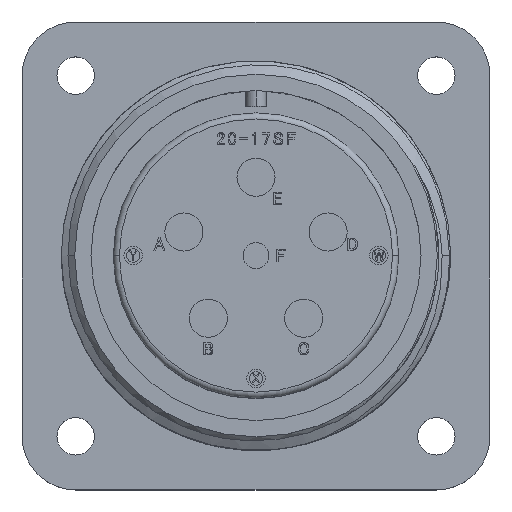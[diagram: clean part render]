
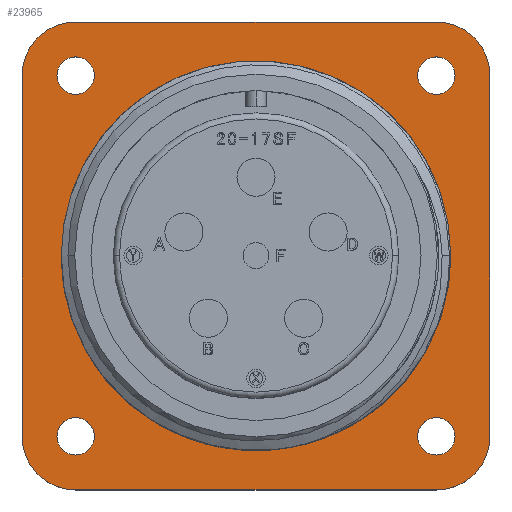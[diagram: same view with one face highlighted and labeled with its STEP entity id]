
A CAD part, top view. The second image highlights one B-rep face of the part: STEP entity #23965.
In plain terms, the highlighted planar face has unit normal (0, 0, 1).
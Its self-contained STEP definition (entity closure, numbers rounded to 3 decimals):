
#15 = CARTESIAN_POINT ( 'NONE',  ( 13.16, 14.685, -19.24 ) ) ;
#23 = EDGE_CURVE ( 'NONE', #2464, #2464, #17229, .T. ) ;
#216 = CIRCLE ( 'NONE', #7450, 4.37 ) ;
#371 = CIRCLE ( 'NONE', #15408, 4.37 ) ;
#824 = AXIS2_PLACEMENT_3D ( 'NONE', #6461, #23479, #8921 ) ;
#1023 = VERTEX_POINT ( 'NONE', #13803 ) ;
#1889 = EDGE_LOOP ( 'NONE', ( #8640 ) ) ;
#2081 = VECTOR ( 'NONE', #17301, 1000. ) ;
#2373 = FACE_BOUND ( 'NONE', #17628, .T. ) ;
#2464 = VERTEX_POINT ( 'NONE', #7375 ) ;
#2891 = DIRECTION ( 'NONE',  ( 0., 0., 1. ) ) ;
#3386 = ORIENTED_EDGE ( 'NONE', *, *, #28657, .T. ) ;
#3636 = EDGE_CURVE ( 'NONE', #7119, #1023, #7475, .T. ) ;
#3774 = EDGE_CURVE ( 'NONE', #16433, #9322, #216, .T. ) ;
#3897 = CARTESIAN_POINT ( 'NONE',  ( 19.05, 14.68, -19.24 ) ) ;
#4858 = DIRECTION ( 'NONE',  ( 1., 0., 0. ) ) ;
#4947 = EDGE_LOOP ( 'NONE', ( #27568, #16024, #31388, #3386, #27326, #28927, #24872, #8479 ) ) ;
#5014 = CARTESIAN_POINT ( 'NONE',  ( -14.68, 19.05, -19.24 ) ) ;
#5953 = EDGE_LOOP ( 'NONE', ( #25338 ) ) ;
#6307 = DIRECTION ( 'NONE',  ( 0., 0., 1. ) ) ;
#6461 = CARTESIAN_POINT ( 'NONE',  ( -14.68, 14.68, -19.24 ) ) ;
#7119 = VERTEX_POINT ( 'NONE', #16349 ) ;
#7239 = CIRCLE ( 'NONE', #11515, 4.37 ) ;
#7375 = CARTESIAN_POINT ( 'NONE',  ( -16.21, -14.685, -19.24 ) ) ;
#7450 = AXIS2_PLACEMENT_3D ( 'NONE', #25117, #10558, #27569 ) ;
#7459 = CARTESIAN_POINT ( 'NONE',  ( 14.685, 14.685, -19.24 ) ) ;
#7475 = LINE ( 'NONE', #24580, #13220 ) ;
#7518 = DIRECTION ( 'NONE',  ( 0., 0., 1. ) ) ;
#8046 = DIRECTION ( 'NONE',  ( 0., 0., 1. ) ) ;
#8093 = CIRCLE ( 'NONE', #15015, 1.525 ) ;
#8191 = VERTEX_POINT ( 'NONE', #29234 ) ;
#8479 = ORIENTED_EDGE ( 'NONE', *, *, #24780, .T. ) ;
#8582 = EDGE_CURVE ( 'NONE', #14686, #14686, #8093, .T. ) ;
#8594 = AXIS2_PLACEMENT_3D ( 'NONE', #24569, #10014, #27033 ) ;
#8640 = ORIENTED_EDGE ( 'NONE', *, *, #11711, .F. ) ;
#8645 = EDGE_CURVE ( 'NONE', #14063, #30264, #13836, .T. ) ;
#8869 = FACE_BOUND ( 'NONE', #1889, .T. ) ;
#8893 = CIRCLE ( 'NONE', #8594, 1.525 ) ;
#8921 = DIRECTION ( 'NONE',  ( 0., -1., 0. ) ) ;
#9284 = CARTESIAN_POINT ( 'NONE',  ( -14.685, -14.685, -19.24 ) ) ;
#9322 = VERTEX_POINT ( 'NONE', #10727 ) ;
#9932 = DIRECTION ( 'NONE',  ( -1., 0., 0. ) ) ;
#10014 = DIRECTION ( 'NONE',  ( 0., 0., 1. ) ) ;
#10026 = DIRECTION ( 'NONE',  ( 0., -1., 0. ) ) ;
#10558 = DIRECTION ( 'NONE',  ( 0., 0., 1. ) ) ;
#10604 = VECTOR ( 'NONE', #4858, 1000. ) ;
#10727 = CARTESIAN_POINT ( 'NONE',  ( 19.05, -14.68, -19.24 ) ) ;
#10865 = CIRCLE ( 'NONE', #22210, 15.855 ) ;
#11515 = AXIS2_PLACEMENT_3D ( 'NONE', #13817, #30853, #16271 ) ;
#11711 = EDGE_CURVE ( 'NONE', #8191, #8191, #28552, .T. ) ;
#12357 = CARTESIAN_POINT ( 'NONE',  ( 19.05, 14.68, -19.24 ) ) ;
#13220 = VECTOR ( 'NONE', #10026, 1000. ) ;
#13332 = CARTESIAN_POINT ( 'NONE',  ( -14.68, 19.05, -19.24 ) ) ;
#13803 = CARTESIAN_POINT ( 'NONE',  ( -19.05, -14.68, -19.24 ) ) ;
#13817 = CARTESIAN_POINT ( 'NONE',  ( 14.68, 14.68, -19.24 ) ) ;
#13836 = CIRCLE ( 'NONE', #29700, 15.855 ) ;
#13930 = VERTEX_POINT ( 'NONE', #14757 ) ;
#14063 = VERTEX_POINT ( 'NONE', #14336 ) ;
#14114 = ORIENTED_EDGE ( 'NONE', *, *, #23, .F. ) ;
#14161 = DIRECTION ( 'NONE',  ( 0., 0., 1. ) ) ;
#14336 = CARTESIAN_POINT ( 'NONE',  ( -15.855, 0., -19.24 ) ) ;
#14598 = FACE_BOUND ( 'NONE', #18581, .T. ) ;
#14686 = VERTEX_POINT ( 'NONE', #15 ) ;
#14757 = CARTESIAN_POINT ( 'NONE',  ( -13.16, 14.685, -19.24 ) ) ;
#15015 = AXIS2_PLACEMENT_3D ( 'NONE', #7459, #24478, #9932 ) ;
#15408 = AXIS2_PLACEMENT_3D ( 'NONE', #22119, #7518, #24525 ) ;
#15707 = CARTESIAN_POINT ( 'NONE',  ( 15.855, 0., -19.24 ) ) ;
#16024 = ORIENTED_EDGE ( 'NONE', *, *, #3636, .T. ) ;
#16058 = ORIENTED_EDGE ( 'NONE', *, *, #23362, .F. ) ;
#16271 = DIRECTION ( 'NONE',  ( -1., 0., 0. ) ) ;
#16349 = CARTESIAN_POINT ( 'NONE',  ( -19.05, 14.68, -19.24 ) ) ;
#16433 = VERTEX_POINT ( 'NONE', #19316 ) ;
#17229 = CIRCLE ( 'NONE', #21721, 1.525 ) ;
#17301 = DIRECTION ( 'NONE',  ( 0., 1., 0. ) ) ;
#17532 = CARTESIAN_POINT ( 'NONE',  ( 0., 0., -19.24 ) ) ;
#17628 = EDGE_LOOP ( 'NONE', ( #14114 ) ) ;
#18139 = ORIENTED_EDGE ( 'NONE', *, *, #31273, .F. ) ;
#18348 = AXIS2_PLACEMENT_3D ( 'NONE', #20935, #6307, #23345 ) ;
#18483 = DIRECTION ( 'NONE',  ( -1., 0., 0. ) ) ;
#18540 = PLANE ( 'NONE',  #824 ) ;
#18581 = EDGE_LOOP ( 'NONE', ( #18139, #26189 ) ) ;
#19316 = CARTESIAN_POINT ( 'NONE',  ( 14.68, -19.05, -19.24 ) ) ;
#19425 = VERTEX_POINT ( 'NONE', #13332 ) ;
#19968 = DIRECTION ( 'NONE',  ( -1., 0., 0. ) ) ;
#20935 = CARTESIAN_POINT ( 'NONE',  ( 14.685, -14.685, -19.24 ) ) ;
#21063 = FACE_BOUND ( 'NONE', #5953, .T. ) ;
#21220 = DIRECTION ( 'NONE',  ( 0., 0., 1. ) ) ;
#21585 = AXIS2_PLACEMENT_3D ( 'NONE', #28740, #14161, #31192 ) ;
#21721 = AXIS2_PLACEMENT_3D ( 'NONE', #9284, #21220, #18483 ) ;
#21739 = CARTESIAN_POINT ( 'NONE',  ( -14.68, -19.05, -19.24 ) ) ;
#21831 = FACE_OUTER_BOUND ( 'NONE', #4947, .T. ) ;
#21965 = EDGE_CURVE ( 'NONE', #9322, #22658, #27216, .T. ) ;
#22119 = CARTESIAN_POINT ( 'NONE',  ( -14.68, -14.68, -19.24 ) ) ;
#22210 = AXIS2_PLACEMENT_3D ( 'NONE', #22625, #8046, #25056 ) ;
#22625 = CARTESIAN_POINT ( 'NONE',  ( 0., 0., -19.24 ) ) ;
#22658 = VERTEX_POINT ( 'NONE', #3897 ) ;
#23345 = DIRECTION ( 'NONE',  ( 1., 0., 0. ) ) ;
#23362 = EDGE_CURVE ( 'NONE', #13930, #13930, #8893, .T. ) ;
#23479 = DIRECTION ( 'NONE',  ( 0., 0., -1. ) ) ;
#23545 = LINE ( 'NONE', #24316, #10604 ) ;
#23728 = VERTEX_POINT ( 'NONE', #21739 ) ;
#23965 = ADVANCED_FACE ( 'NONE', ( #21063, #2373, #8869, #27503, #21831, #14598 ), #18540, .F. ) ;
#24316 = CARTESIAN_POINT ( 'NONE',  ( -14.68, -19.05, -19.24 ) ) ;
#24478 = DIRECTION ( 'NONE',  ( 0., 0., 1. ) ) ;
#24525 = DIRECTION ( 'NONE',  ( -1., 0., 0. ) ) ;
#24569 = CARTESIAN_POINT ( 'NONE',  ( -14.685, 14.685, -19.24 ) ) ;
#24580 = CARTESIAN_POINT ( 'NONE',  ( -19.05, 14.68, -19.24 ) ) ;
#24780 = EDGE_CURVE ( 'NONE', #30371, #19425, #30935, .T. ) ;
#24872 = ORIENTED_EDGE ( 'NONE', *, *, #27072, .T. ) ;
#25056 = DIRECTION ( 'NONE',  ( -1., 0., 0. ) ) ;
#25117 = CARTESIAN_POINT ( 'NONE',  ( 14.68, -14.68, -19.24 ) ) ;
#25338 = ORIENTED_EDGE ( 'NONE', *, *, #8582, .F. ) ;
#26189 = ORIENTED_EDGE ( 'NONE', *, *, #8645, .F. ) ;
#26390 = CARTESIAN_POINT ( 'NONE',  ( 14.68, 19.05, -19.24 ) ) ;
#26593 = CIRCLE ( 'NONE', #21585, 4.37 ) ;
#26625 = EDGE_LOOP ( 'NONE', ( #16058 ) ) ;
#26746 = EDGE_CURVE ( 'NONE', #1023, #23728, #371, .T. ) ;
#27033 = DIRECTION ( 'NONE',  ( 1., 0., 0. ) ) ;
#27072 = EDGE_CURVE ( 'NONE', #22658, #30371, #7239, .T. ) ;
#27216 = LINE ( 'NONE', #12357, #2081 ) ;
#27326 = ORIENTED_EDGE ( 'NONE', *, *, #3774, .T. ) ;
#27503 = FACE_BOUND ( 'NONE', #26625, .T. ) ;
#27568 = ORIENTED_EDGE ( 'NONE', *, *, #28517, .T. ) ;
#27569 = DIRECTION ( 'NONE',  ( 1., 0., 0. ) ) ;
#28517 = EDGE_CURVE ( 'NONE', #19425, #7119, #26593, .T. ) ;
#28552 = CIRCLE ( 'NONE', #18348, 1.525 ) ;
#28657 = EDGE_CURVE ( 'NONE', #23728, #16433, #23545, .T. ) ;
#28740 = CARTESIAN_POINT ( 'NONE',  ( -14.68, 14.68, -19.24 ) ) ;
#28927 = ORIENTED_EDGE ( 'NONE', *, *, #21965, .T. ) ;
#29234 = CARTESIAN_POINT ( 'NONE',  ( 16.21, -14.685, -19.24 ) ) ;
#29392 = VECTOR ( 'NONE', #29506, 1000. ) ;
#29506 = DIRECTION ( 'NONE',  ( -1., 0., 0. ) ) ;
#29700 = AXIS2_PLACEMENT_3D ( 'NONE', #17532, #2891, #19968 ) ;
#30264 = VERTEX_POINT ( 'NONE', #15707 ) ;
#30371 = VERTEX_POINT ( 'NONE', #26390 ) ;
#30853 = DIRECTION ( 'NONE',  ( 0., 0., 1. ) ) ;
#30935 = LINE ( 'NONE', #5014, #29392 ) ;
#31192 = DIRECTION ( 'NONE',  ( -1., 0., 0. ) ) ;
#31273 = EDGE_CURVE ( 'NONE', #30264, #14063, #10865, .T. ) ;
#31388 = ORIENTED_EDGE ( 'NONE', *, *, #26746, .T. ) ;
